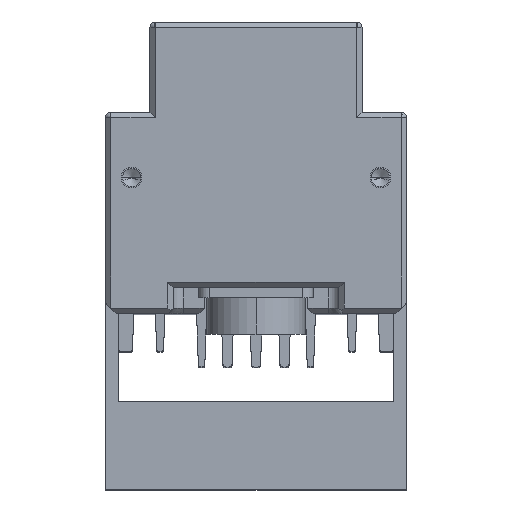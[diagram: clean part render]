
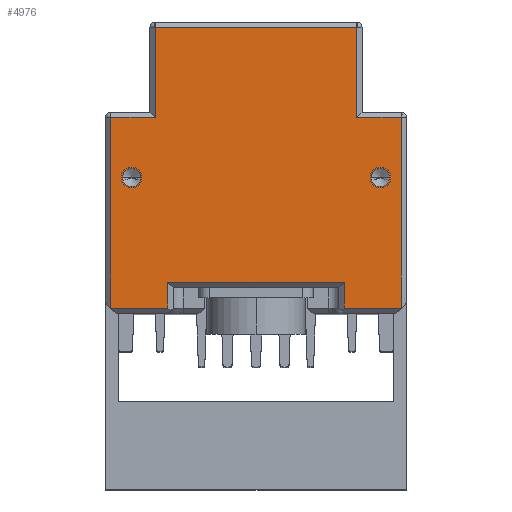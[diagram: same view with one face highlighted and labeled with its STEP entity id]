
A CAD part, top view. The second image highlights one B-rep face of the part: STEP entity #4976.
In plain terms, the highlighted planar face has unit normal (0, 0, 1).
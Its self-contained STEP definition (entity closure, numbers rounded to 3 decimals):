
#757=CARTESIAN_POINT('',(-24.,15.794,85.));
#758=DIRECTION('',(0.,0.,1.));
#759=DIRECTION('',(-1.,0.,0.));
#760=AXIS2_PLACEMENT_3D('',#757,#758,#759);
#762=CARTESIAN_POINT('',(-24.,15.794,85.));
#763=DIRECTION('',(0.,0.,1.));
#764=DIRECTION('',(1.,0.,0.));
#765=AXIS2_PLACEMENT_3D('',#762,#763,#764);
#767=CARTESIAN_POINT('',(24.,15.794,85.));
#768=DIRECTION('',(0.,0.,1.));
#769=DIRECTION('',(-1.,0.,0.));
#770=AXIS2_PLACEMENT_3D('',#767,#768,#769);
#772=CARTESIAN_POINT('',(24.,15.794,85.));
#773=DIRECTION('',(0.,0.,1.));
#774=DIRECTION('',(1.,0.,0.));
#775=AXIS2_PLACEMENT_3D('',#772,#773,#774);
#777=DIRECTION('',(1.,0.,0.));
#778=VECTOR('',#777,11.);
#779=CARTESIAN_POINT('',(-28.,-9.406,85.));
#780=LINE('',#779,#778);
#781=DIRECTION('',(0.,-1.,0.));
#782=VECTOR('',#781,36.8);
#783=CARTESIAN_POINT('',(-28.,27.394,85.));
#784=LINE('',#783,#782);
#785=DIRECTION('',(-1.,0.,0.));
#786=VECTOR('',#785,8.55);
#787=CARTESIAN_POINT('',(-19.45,27.394,85.));
#788=LINE('',#787,#786);
#789=DIRECTION('',(0.,-1.,0.));
#790=VECTOR('',#789,17.4);
#791=CARTESIAN_POINT('',(-19.45,44.794,85.));
#792=LINE('',#791,#790);
#793=DIRECTION('',(-1.,0.,0.));
#794=VECTOR('',#793,38.899);
#795=CARTESIAN_POINT('',(19.45,44.794,85.));
#796=LINE('',#795,#794);
#797=DIRECTION('',(0.,1.,0.));
#798=VECTOR('',#797,17.4);
#799=CARTESIAN_POINT('',(19.45,27.394,85.));
#800=LINE('',#799,#798);
#801=DIRECTION('',(-1.,0.,0.));
#802=VECTOR('',#801,8.55);
#803=CARTESIAN_POINT('',(28.,27.394,85.));
#804=LINE('',#803,#802);
#805=DIRECTION('',(0.,1.,0.));
#806=VECTOR('',#805,36.8);
#807=CARTESIAN_POINT('',(28.,-9.406,85.));
#808=LINE('',#807,#806);
#809=DIRECTION('',(1.,0.,0.));
#810=VECTOR('',#809,11.);
#811=CARTESIAN_POINT('',(17.,-9.406,85.));
#812=LINE('',#811,#810);
#813=DIRECTION('',(0.,-1.,0.));
#814=VECTOR('',#813,5.);
#815=CARTESIAN_POINT('',(17.,-4.406,85.));
#816=LINE('',#815,#814);
#817=DIRECTION('',(-1.,0.,0.));
#818=VECTOR('',#817,34.);
#819=CARTESIAN_POINT('',(17.,-4.406,85.));
#820=LINE('',#819,#818);
#821=DIRECTION('',(0.,1.,0.));
#822=VECTOR('',#821,5.);
#823=CARTESIAN_POINT('',(-17.,-9.406,85.));
#824=LINE('',#823,#822);
#3813=CARTESIAN_POINT('',(-28.,-9.406,85.));
#3814=CARTESIAN_POINT('',(-17.,-9.406,85.));
#3815=VERTEX_POINT('',#3813);
#3816=VERTEX_POINT('',#3814);
#3825=CARTESIAN_POINT('',(-28.,27.394,85.));
#3826=VERTEX_POINT('',#3825);
#3829=CARTESIAN_POINT('',(-19.45,27.394,85.));
#3830=VERTEX_POINT('',#3829);
#3833=CARTESIAN_POINT('',(19.45,27.394,85.));
#3834=CARTESIAN_POINT('',(19.45,44.794,85.));
#3835=VERTEX_POINT('',#3833);
#3836=VERTEX_POINT('',#3834);
#3843=CARTESIAN_POINT('',(-19.45,44.794,85.));
#3844=VERTEX_POINT('',#3843);
#3849=CARTESIAN_POINT('',(28.,-9.406,85.));
#3850=CARTESIAN_POINT('',(28.,27.394,85.));
#3851=VERTEX_POINT('',#3849);
#3852=VERTEX_POINT('',#3850);
#3863=CARTESIAN_POINT('',(17.,-9.406,85.));
#3864=VERTEX_POINT('',#3863);
#3885=CARTESIAN_POINT('',(17.,-4.406,85.));
#3886=VERTEX_POINT('',#3885);
#3887=CARTESIAN_POINT('',(-17.,-4.406,85.));
#3888=VERTEX_POINT('',#3887);
#3919=CARTESIAN_POINT('',(-25.75,15.794,85.));
#3920=CARTESIAN_POINT('',(-22.25,15.794,85.));
#3921=VERTEX_POINT('',#3919);
#3922=VERTEX_POINT('',#3920);
#3929=CARTESIAN_POINT('',(22.25,15.794,85.));
#3930=CARTESIAN_POINT('',(25.75,15.794,85.));
#3931=VERTEX_POINT('',#3929);
#3932=VERTEX_POINT('',#3930);
#4934=CARTESIAN_POINT('',(0.,0.,85.));
#4935=DIRECTION('',(0.,0.,1.));
#4936=DIRECTION('',(1.,0.,0.));
#4937=AXIS2_PLACEMENT_3D('',#4934,#4935,#4936);
#4938=PLANE('',#4937);
#4940=ORIENTED_EDGE('',*,*,#4939,.F.);
#4942=ORIENTED_EDGE('',*,*,#4941,.F.);
#4944=ORIENTED_EDGE('',*,*,#4943,.F.);
#4946=ORIENTED_EDGE('',*,*,#4945,.F.);
#4948=ORIENTED_EDGE('',*,*,#4947,.F.);
#4950=ORIENTED_EDGE('',*,*,#4949,.F.);
#4952=ORIENTED_EDGE('',*,*,#4951,.F.);
#4954=ORIENTED_EDGE('',*,*,#4953,.F.);
#4956=ORIENTED_EDGE('',*,*,#4955,.F.);
#4958=ORIENTED_EDGE('',*,*,#4957,.F.);
#4960=ORIENTED_EDGE('',*,*,#4959,.T.);
#4961=ORIENTED_EDGE('',*,*,#4923,.F.);
#4962=EDGE_LOOP('',(#4940,#4942,#4944,#4946,#4948,#4950,#4952,#4954,#4956,#4958,
#4960,#4961));
#4963=FACE_OUTER_BOUND('',#4962,.F.);
#4965=ORIENTED_EDGE('',*,*,#4964,.T.);
#4967=ORIENTED_EDGE('',*,*,#4966,.T.);
#4968=EDGE_LOOP('',(#4965,#4967));
#4969=FACE_BOUND('',#4968,.F.);
#4971=ORIENTED_EDGE('',*,*,#4970,.T.);
#4973=ORIENTED_EDGE('',*,*,#4972,.T.);
#4974=EDGE_LOOP('',(#4971,#4973));
#4975=FACE_BOUND('',#4974,.F.);
#761=CIRCLE('',#760,1.75);
#766=CIRCLE('',#765,1.75);
#771=CIRCLE('',#770,1.75);
#776=CIRCLE('',#775,1.75);
#4923=EDGE_CURVE('',#3816,#3888,#824,.T.);
#4939=EDGE_CURVE('',#3815,#3816,#780,.T.);
#4941=EDGE_CURVE('',#3826,#3815,#784,.T.);
#4943=EDGE_CURVE('',#3830,#3826,#788,.T.);
#4945=EDGE_CURVE('',#3844,#3830,#792,.T.);
#4947=EDGE_CURVE('',#3836,#3844,#796,.T.);
#4949=EDGE_CURVE('',#3835,#3836,#800,.T.);
#4951=EDGE_CURVE('',#3852,#3835,#804,.T.);
#4953=EDGE_CURVE('',#3851,#3852,#808,.T.);
#4955=EDGE_CURVE('',#3864,#3851,#812,.T.);
#4957=EDGE_CURVE('',#3886,#3864,#816,.T.);
#4959=EDGE_CURVE('',#3886,#3888,#820,.T.);
#4964=EDGE_CURVE('',#3931,#3932,#771,.T.);
#4966=EDGE_CURVE('',#3932,#3931,#776,.T.);
#4970=EDGE_CURVE('',#3921,#3922,#761,.T.);
#4972=EDGE_CURVE('',#3922,#3921,#766,.T.);
#4976=ADVANCED_FACE('',(#4963,#4969,#4975),#4938,.T.);
